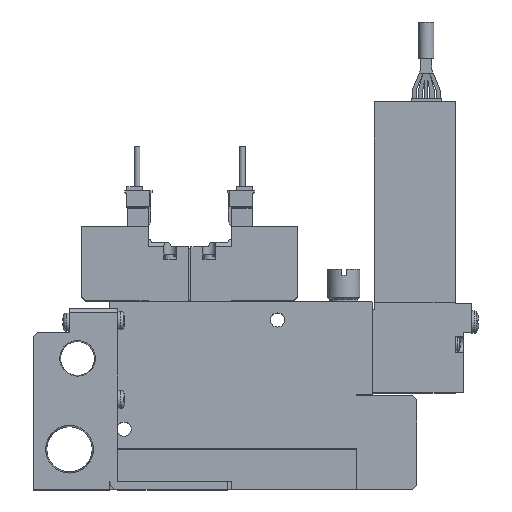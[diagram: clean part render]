
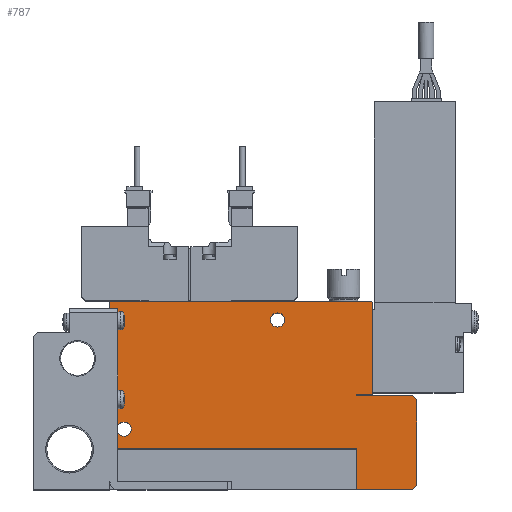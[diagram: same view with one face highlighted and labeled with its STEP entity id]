
A CAD part, top view. The second image highlights one B-rep face of the part: STEP entity #787.
In plain terms, the highlighted planar face has unit normal (0, 0, 1).
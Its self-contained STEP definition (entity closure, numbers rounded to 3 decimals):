
#787=ADVANCED_FACE('',(#1810,#1811,#1812),#1813,.F.);
#1810=FACE_OUTER_BOUND('',#3236,.T.);
#1811=FACE_BOUND('',#3237,.T.);
#1812=FACE_BOUND('',#3238,.T.);
#1813=PLANE('',#3239);
#3236=EDGE_LOOP('',(#6787,#6788,#6789,#6790,#6791,#6792,#6793,#6794,#6795,#6796,#6797,#6798,#6799,#6800));
#3237=EDGE_LOOP('',(#6801));
#3238=EDGE_LOOP('',(#6802));
#3239=AXIS2_PLACEMENT_3D('',#6803,#6804,#6805);
#6787=ORIENTED_EDGE('',*,*,#9580,.T.);
#6788=ORIENTED_EDGE('',*,*,#9601,.F.);
#6789=ORIENTED_EDGE('',*,*,#9624,.F.);
#6790=ORIENTED_EDGE('',*,*,#9625,.T.);
#6791=ORIENTED_EDGE('',*,*,#9626,.T.);
#6792=ORIENTED_EDGE('',*,*,#9627,.T.);
#6793=ORIENTED_EDGE('',*,*,#9628,.T.);
#6794=ORIENTED_EDGE('',*,*,#9629,.T.);
#6795=ORIENTED_EDGE('',*,*,#9630,.T.);
#6796=ORIENTED_EDGE('',*,*,#9631,.T.);
#6797=ORIENTED_EDGE('',*,*,#9632,.T.);
#6798=ORIENTED_EDGE('',*,*,#9609,.T.);
#6799=ORIENTED_EDGE('',*,*,#9633,.T.);
#6800=ORIENTED_EDGE('',*,*,#9614,.T.);
#6801=ORIENTED_EDGE('',*,*,#9622,.F.);
#6802=ORIENTED_EDGE('',*,*,#9634,.F.);
#6803=CARTESIAN_POINT('',(0.0,0.0,5.0));
#6804=DIRECTION('',(0.0,0.0,-1.0));
#6805=DIRECTION('',(0.0,-1.0,0.0));
#9580=EDGE_CURVE('',#11666,#11664,#11667,.T.);
#9601=EDGE_CURVE('',#11704,#11664,#11705,.T.);
#9609=EDGE_CURVE('',#11719,#11717,#11720,.T.);
#9614=EDGE_CURVE('',#11727,#11666,#11728,.T.);
#9622=EDGE_CURVE('',#11740,#11740,#11741,.T.);
#9624=EDGE_CURVE('',#11743,#11704,#11744,.T.);
#9625=EDGE_CURVE('',#11743,#11745,#11746,.T.);
#9626=EDGE_CURVE('',#11745,#11747,#11748,.T.);
#9627=EDGE_CURVE('',#11747,#11749,#11750,.T.);
#9628=EDGE_CURVE('',#11749,#11751,#11752,.T.);
#9629=EDGE_CURVE('',#11751,#11753,#11754,.T.);
#9630=EDGE_CURVE('',#11753,#11755,#11756,.T.);
#9631=EDGE_CURVE('',#11755,#11757,#11758,.T.);
#9632=EDGE_CURVE('',#11757,#11719,#11759,.T.);
#9633=EDGE_CURVE('',#11717,#11727,#11760,.T.);
#9634=EDGE_CURVE('',#11761,#11761,#11762,.T.);
#11664=VERTEX_POINT('',#15075);
#11666=VERTEX_POINT('',#15078);
#11667=LINE('',#15079,#15080);
#11704=VERTEX_POINT('',#15133);
#11705=LINE('',#15134,#15135);
#11717=VERTEX_POINT('',#15153);
#11719=VERTEX_POINT('',#15156);
#11720=LINE('',#15157,#15158);
#11727=VERTEX_POINT('',#15168);
#11728=LINE('',#15169,#15170);
#11740=VERTEX_POINT('',#15188);
#11741=CIRCLE('',#15189,1.75);
#11743=VERTEX_POINT('',#15191);
#11744=LINE('',#15192,#15193);
#11745=VERTEX_POINT('',#15194);
#11746=LINE('',#15195,#15196);
#11747=VERTEX_POINT('',#15197);
#11748=LINE('',#15198,#15199);
#11749=VERTEX_POINT('',#15200);
#11750=LINE('',#15201,#15202);
#11751=VERTEX_POINT('',#15203);
#11752=LINE('',#15204,#15205);
#11753=VERTEX_POINT('',#15206);
#11754=LINE('',#15207,#15208);
#11755=VERTEX_POINT('',#15209);
#11756=LINE('',#15210,#15211);
#11757=VERTEX_POINT('',#15212);
#11758=LINE('',#15213,#15214);
#11759=LINE('',#15215,#15216);
#11760=LINE('',#15217,#15218);
#11761=VERTEX_POINT('',#15219);
#11762=CIRCLE('',#15220,1.75);
#15075=CARTESIAN_POINT('',(0.0,10.1,5.0));
#15078=CARTESIAN_POINT('',(0.0,46.4,5.0));
#15079=CARTESIAN_POINT('',(0.0,46.4,5.0));
#15080=VECTOR('',#18510,1.0);
#15133=CARTESIAN_POINT('',(61.1,10.1,5.0));
#15134=CARTESIAN_POINT('',(61.1,10.1,5.0));
#15135=VECTOR('',#18539,1.0);
#15153=CARTESIAN_POINT('',(64.8,46.6,5.0));
#15156=CARTESIAN_POINT('',(65.0,46.4,5.0));
#15157=CARTESIAN_POINT('',(65.0,46.4,5.0));
#15158=VECTOR('',#18547,1.0);
#15168=CARTESIAN_POINT('',(0.2,46.6,5.0));
#15169=CARTESIAN_POINT('',(0.2,46.6,5.0));
#15170=VECTOR('',#18554,1.0);
#15188=CARTESIAN_POINT('',(5.25,15.0,5.0));
#15189=AXIS2_PLACEMENT_3D('',#18564,#18565,#18566);
#15191=CARTESIAN_POINT('',(61.1,0.0,5.0));
#15192=CARTESIAN_POINT('',(61.1,0.0,5.0));
#15193=VECTOR('',#18570,1.0);
#15194=CARTESIAN_POINT('',(75.0,0.0,5.0));
#15195=CARTESIAN_POINT('',(0.0,0.0,5.0));
#15196=VECTOR('',#18571,1.0);
#15197=CARTESIAN_POINT('',(76.0,1.0,5.0));
#15198=CARTESIAN_POINT('',(75.0,0.0,5.0));
#15199=VECTOR('',#18572,1.0);
#15200=CARTESIAN_POINT('',(76.0,22.25,5.0));
#15201=CARTESIAN_POINT('',(76.0,1.0,5.0));
#15202=VECTOR('',#18573,1.0);
#15203=CARTESIAN_POINT('',(75.0,23.25,5.0));
#15204=CARTESIAN_POINT('',(76.0,22.25,5.0));
#15205=VECTOR('',#18574,1.0);
#15206=CARTESIAN_POINT('',(61.0,23.25,5.0));
#15207=CARTESIAN_POINT('',(75.0,23.25,5.0));
#15208=VECTOR('',#18575,1.0);
#15209=CARTESIAN_POINT('',(61.0,23.5,5.0));
#15210=CARTESIAN_POINT('',(61.0,23.25,5.0));
#15211=VECTOR('',#18576,1.0);
#15212=CARTESIAN_POINT('',(65.0,23.5,5.0));
#15213=CARTESIAN_POINT('',(61.0,23.5,5.0));
#15214=VECTOR('',#18577,1.0);
#15215=CARTESIAN_POINT('',(65.0,23.5,5.0));
#15216=VECTOR('',#18578,1.0);
#15217=CARTESIAN_POINT('',(64.8,46.6,5.0));
#15218=VECTOR('',#18579,1.0);
#15219=CARTESIAN_POINT('',(43.25,42.0,5.0));
#15220=AXIS2_PLACEMENT_3D('',#18580,#18581,#18582);
#18510=DIRECTION('',(0.0,-1.0,0.0));
#18539=DIRECTION('',(-1.0,0.0,0.0));
#18547=DIRECTION('',(-0.707,0.707,0.0));
#18554=DIRECTION('',(-0.707,-0.707,0.0));
#18564=CARTESIAN_POINT('',(3.5,15.0,5.0));
#18565=DIRECTION('',(0.0,0.0,1.0));
#18566=DIRECTION('',(1.0,0.0,0.0));
#18570=DIRECTION('',(0.0,1.0,0.0));
#18571=DIRECTION('',(1.0,0.0,0.0));
#18572=DIRECTION('',(0.707,0.707,0.0));
#18573=DIRECTION('',(0.0,1.0,0.0));
#18574=DIRECTION('',(-0.707,0.707,0.0));
#18575=DIRECTION('',(-1.0,0.0,0.0));
#18576=DIRECTION('',(0.0,1.0,0.0));
#18577=DIRECTION('',(1.0,0.,0.0));
#18578=DIRECTION('',(0.0,1.0,0.0));
#18579=DIRECTION('',(-1.0,0.0,0.0));
#18580=CARTESIAN_POINT('',(41.5,42.0,5.0));
#18581=DIRECTION('',(0.0,0.0,1.0));
#18582=DIRECTION('',(1.0,0.0,0.0));
